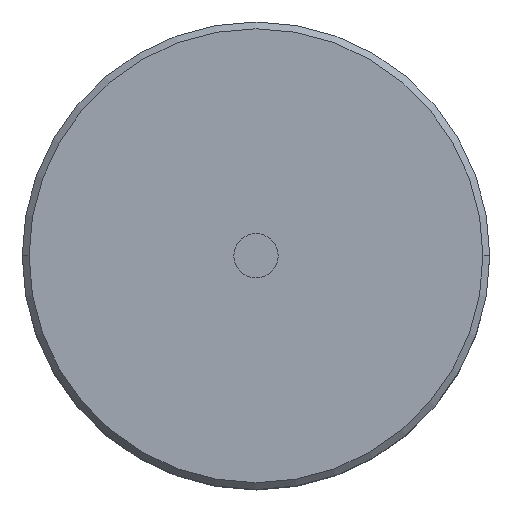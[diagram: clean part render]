
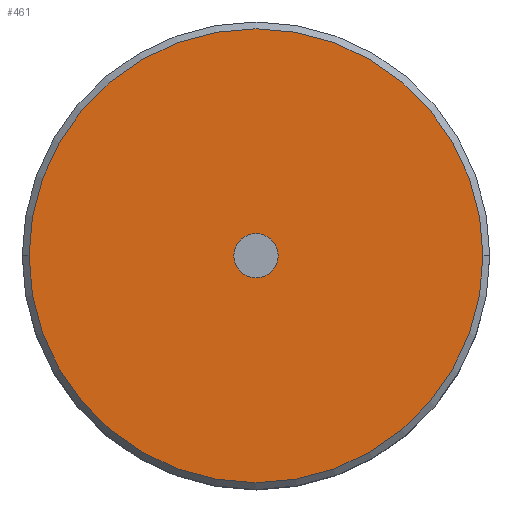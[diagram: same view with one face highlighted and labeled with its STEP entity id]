
A CAD part, top view. The second image highlights one B-rep face of the part: STEP entity #461.
In plain terms, the highlighted planar face has unit normal (0, 0, 1).
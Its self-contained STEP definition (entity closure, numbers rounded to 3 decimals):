
#13 = VERTEX_POINT ( 'NONE', #893 ) ;
#33 = CARTESIAN_POINT ( 'NONE',  ( 0., 0., 7.8 ) ) ;
#87 = CARTESIAN_POINT ( 'NONE',  ( 6.65, 0., 7.8 ) ) ;
#184 = CIRCLE ( 'NONE', #278, 0.65 ) ;
#239 = AXIS2_PLACEMENT_3D ( 'NONE', #33, #374, #846 ) ;
#241 = DIRECTION ( 'NONE',  ( -1., 0., 0. ) ) ;
#278 = AXIS2_PLACEMENT_3D ( 'NONE', #981, #867, #1054 ) ;
#316 = EDGE_CURVE ( 'NONE', #406, #618, #381, .T. ) ;
#353 = EDGE_LOOP ( 'NONE', ( #398, #419 ) ) ;
#371 = DIRECTION ( 'NONE',  ( 0., 0., 1. ) ) ;
#374 = DIRECTION ( 'NONE',  ( 0., 0., -1. ) ) ;
#381 = CIRCLE ( 'NONE', #239, 0.65 ) ;
#388 = EDGE_CURVE ( 'NONE', #13, #579, #906, .T. ) ;
#398 = ORIENTED_EDGE ( 'NONE', *, *, #443, .T. ) ;
#406 = VERTEX_POINT ( 'NONE', #939 ) ;
#419 = ORIENTED_EDGE ( 'NONE', *, *, #316, .T. ) ;
#429 = DIRECTION ( 'NONE',  ( 1., 0., 0. ) ) ;
#443 = EDGE_CURVE ( 'NONE', #618, #406, #184, .T. ) ;
#453 = CARTESIAN_POINT ( 'NONE',  ( 0., 0., 7.8 ) ) ;
#461 = ADVANCED_FACE ( 'NONE', ( #620, #792 ), #628, .T. ) ;
#496 = CARTESIAN_POINT ( 'NONE',  ( 0., 0., 7.8 ) ) ;
#507 = DIRECTION ( 'NONE',  ( 0., 0., -1. ) ) ;
#528 = AXIS2_PLACEMENT_3D ( 'NONE', #453, #371, #429 ) ;
#579 = VERTEX_POINT ( 'NONE', #87 ) ;
#618 = VERTEX_POINT ( 'NONE', #669 ) ;
#620 = FACE_OUTER_BOUND ( 'NONE', #938, .T. ) ;
#628 = PLANE ( 'NONE',  #528 ) ;
#666 = DIRECTION ( 'NONE',  ( -1., 0., 0. ) ) ;
#669 = CARTESIAN_POINT ( 'NONE',  ( -0.65, 0., 7.8 ) ) ;
#675 = AXIS2_PLACEMENT_3D ( 'NONE', #496, #1019, #241 ) ;
#770 = CARTESIAN_POINT ( 'NONE',  ( 0., 0., 7.8 ) ) ;
#792 = FACE_BOUND ( 'NONE', #353, .T. ) ;
#837 = EDGE_CURVE ( 'NONE', #579, #13, #857, .T. ) ;
#846 = DIRECTION ( 'NONE',  ( -1., 0., 0. ) ) ;
#857 = CIRCLE ( 'NONE', #675, 6.65 ) ;
#867 = DIRECTION ( 'NONE',  ( 0., 0., -1. ) ) ;
#893 = CARTESIAN_POINT ( 'NONE',  ( -6.65, 0., 7.8 ) ) ;
#906 = CIRCLE ( 'NONE', #966, 6.65 ) ;
#938 = EDGE_LOOP ( 'NONE', ( #955, #972 ) ) ;
#939 = CARTESIAN_POINT ( 'NONE',  ( 0.65, 0., 7.8 ) ) ;
#955 = ORIENTED_EDGE ( 'NONE', *, *, #388, .F. ) ;
#966 = AXIS2_PLACEMENT_3D ( 'NONE', #770, #507, #666 ) ;
#972 = ORIENTED_EDGE ( 'NONE', *, *, #837, .F. ) ;
#981 = CARTESIAN_POINT ( 'NONE',  ( 0., 0., 7.8 ) ) ;
#1019 = DIRECTION ( 'NONE',  ( 0., 0., -1. ) ) ;
#1054 = DIRECTION ( 'NONE',  ( -1., 0., 0. ) ) ;
